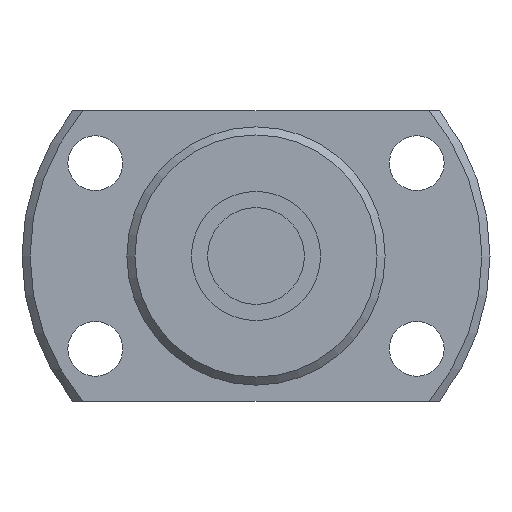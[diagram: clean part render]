
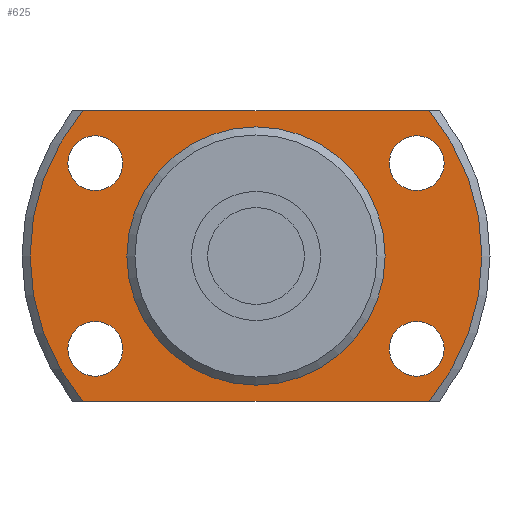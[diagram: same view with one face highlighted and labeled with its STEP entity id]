
A CAD part, left-side view. The second image highlights one B-rep face of the part: STEP entity #625.
In plain terms, the highlighted planar face has unit normal (-1, 0, 0).
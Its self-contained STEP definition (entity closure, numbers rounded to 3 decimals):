
#75=LINE('',#1102,#93);
#76=LINE('',#1106,#94);
#93=VECTOR('',#910,1000.);
#94=VECTOR('',#913,1000.);
#185=ORIENTED_EDGE('',*,*,#290,.T.);
#186=ORIENTED_EDGE('',*,*,#291,.T.);
#187=ORIENTED_EDGE('',*,*,#292,.T.);
#188=ORIENTED_EDGE('',*,*,#293,.T.);
#189=ORIENTED_EDGE('',*,*,#275,.F.);
#190=ORIENTED_EDGE('',*,*,#294,.F.);
#191=ORIENTED_EDGE('',*,*,#295,.F.);
#192=ORIENTED_EDGE('',*,*,#296,.F.);
#193=ORIENTED_EDGE('',*,*,#289,.T.);
#275=EDGE_CURVE('',#340,#341,#392,.T.);
#289=EDGE_CURVE('',#353,#353,#401,.T.);
#290=EDGE_CURVE('',#354,#354,#402,.T.);
#291=EDGE_CURVE('',#355,#355,#403,.T.);
#292=EDGE_CURVE('',#356,#356,#404,.T.);
#293=EDGE_CURVE('',#357,#357,#405,.T.);
#294=EDGE_CURVE('',#358,#340,#75,.T.);
#295=EDGE_CURVE('',#359,#358,#406,.T.);
#296=EDGE_CURVE('',#341,#359,#76,.T.);
#340=VERTEX_POINT('',#1048);
#341=VERTEX_POINT('',#1050);
#353=VERTEX_POINT('',#1092);
#354=VERTEX_POINT('',#1095);
#355=VERTEX_POINT('',#1097);
#356=VERTEX_POINT('',#1099);
#357=VERTEX_POINT('',#1101);
#358=VERTEX_POINT('',#1103);
#359=VERTEX_POINT('',#1105);
#392=CIRCLE('',#712,14.);
#401=CIRCLE('',#728,7.85);
#402=CIRCLE('',#730,1.7);
#403=CIRCLE('',#731,1.7);
#404=CIRCLE('',#732,1.7);
#405=CIRCLE('',#733,1.7);
#406=CIRCLE('',#734,14.);
#467=EDGE_LOOP('',(#185));
#468=EDGE_LOOP('',(#186));
#469=EDGE_LOOP('',(#187));
#470=EDGE_LOOP('',(#188));
#471=EDGE_LOOP('',(#189,#190,#191,#192));
#472=EDGE_LOOP('',(#193));
#547=FACE_BOUND('',#467,.T.);
#548=FACE_BOUND('',#468,.T.);
#549=FACE_BOUND('',#469,.T.);
#550=FACE_BOUND('',#470,.T.);
#551=FACE_BOUND('',#471,.T.);
#552=FACE_BOUND('',#472,.T.);
#589=PLANE('',#729);
#625=ADVANCED_FACE('',(#547,#548,#549,#550,#551,#552),#589,.F.);
#712=AXIS2_PLACEMENT_3D('',#1049,#864,#865);
#728=AXIS2_PLACEMENT_3D('',#1091,#898,#899);
#729=AXIS2_PLACEMENT_3D('',#1093,#900,#901);
#730=AXIS2_PLACEMENT_3D('',#1094,#902,#903);
#731=AXIS2_PLACEMENT_3D('',#1096,#904,#905);
#732=AXIS2_PLACEMENT_3D('',#1098,#906,#907);
#733=AXIS2_PLACEMENT_3D('',#1100,#908,#909);
#734=AXIS2_PLACEMENT_3D('',#1104,#911,#912);
#864=DIRECTION('',(1.,0.,0.));
#865=DIRECTION('',(0.,0.,-1.));
#898=DIRECTION('',(1.,0.,0.));
#899=DIRECTION('',(0.,0.,-1.));
#900=DIRECTION('',(1.,0.,0.));
#901=DIRECTION('',(0.,0.,-1.));
#902=DIRECTION('',(1.,0.,0.));
#903=DIRECTION('',(0.,0.,-1.));
#904=DIRECTION('',(1.,0.,0.));
#905=DIRECTION('',(0.,0.,-1.));
#906=DIRECTION('',(1.,0.,0.));
#907=DIRECTION('',(0.,0.,-1.));
#908=DIRECTION('',(1.,0.,0.));
#909=DIRECTION('',(0.,0.,-1.));
#910=DIRECTION('',(0.,1.,0.));
#911=DIRECTION('',(1.,0.,0.));
#912=DIRECTION('',(0.,0.,-1.));
#913=DIRECTION('',(0.,-1.,0.));
#1048=CARTESIAN_POINT('',(12.,10.724,-9.));
#1049=CARTESIAN_POINT('',(12.,0.,0.));
#1050=CARTESIAN_POINT('',(12.,10.724,9.));
#1091=CARTESIAN_POINT('',(12.,0.,0.));
#1092=CARTESIAN_POINT('',(12.,0.,-7.85));
#1093=CARTESIAN_POINT('',(12.,7.85,0.));
#1094=CARTESIAN_POINT('',(12.,-9.959,-5.75));
#1095=CARTESIAN_POINT('',(12.,-9.959,-7.45));
#1096=CARTESIAN_POINT('',(12.,-9.959,5.75));
#1097=CARTESIAN_POINT('',(12.,-9.959,4.05));
#1098=CARTESIAN_POINT('',(12.,9.959,-5.75));
#1099=CARTESIAN_POINT('',(12.,9.959,-7.45));
#1100=CARTESIAN_POINT('',(12.,9.959,5.75));
#1101=CARTESIAN_POINT('',(12.,9.959,4.05));
#1102=CARTESIAN_POINT('',(12.,-19.5,-9.));
#1103=CARTESIAN_POINT('',(12.,-10.724,-9.));
#1104=CARTESIAN_POINT('',(12.,0.,0.));
#1105=CARTESIAN_POINT('',(12.,-10.724,9.));
#1106=CARTESIAN_POINT('',(12.,19.5,9.));
